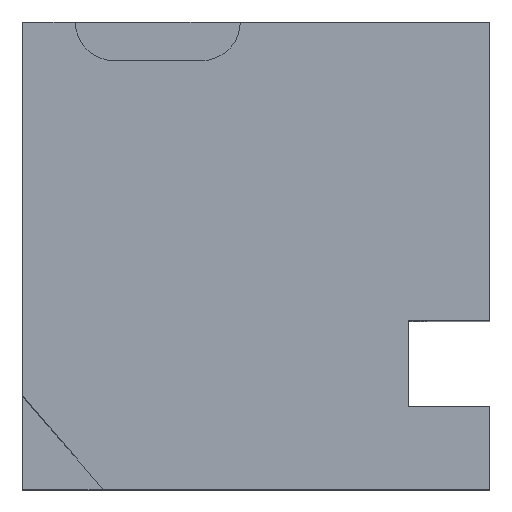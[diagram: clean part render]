
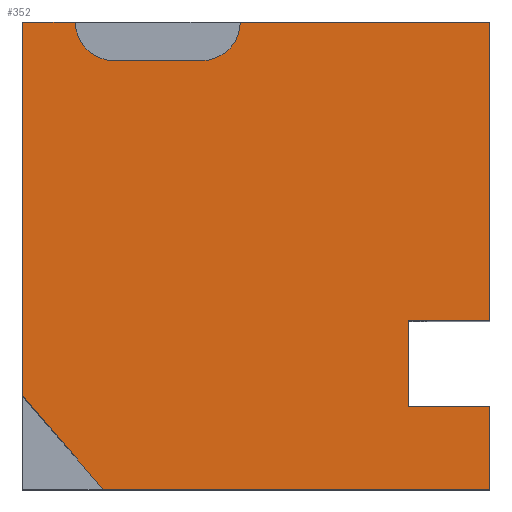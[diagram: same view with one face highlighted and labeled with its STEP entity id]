
A CAD part, top view. The second image highlights one B-rep face of the part: STEP entity #352.
In plain terms, the highlighted planar face has unit normal (0, 0, 1).
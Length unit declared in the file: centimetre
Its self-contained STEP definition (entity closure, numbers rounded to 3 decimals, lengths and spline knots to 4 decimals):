
#54 = VERTEX_POINT ( 'NONE', #469 ) ;
#61 = CARTESIAN_POINT ( 'NONE',  ( 825.5961, 360.1087, 1000. ) ) ;
#74 = DIRECTION ( 'NONE',  ( -1., 0., 0. ) ) ;
#76 = EDGE_CURVE ( 'NONE', #761, #1442, #1075, .T. ) ;
#86 = CARTESIAN_POINT ( 'NONE',  ( 1000., 177.7805, 1000. ) ) ;
#89 = VECTOR ( 'NONE', #401, 100. ) ;
#129 = CARTESIAN_POINT ( 'NONE',  ( 196.2284, 917.2132, 1000. ) ) ;
#162 = CARTESIAN_POINT ( 'NONE',  ( 1000., 0., 1000. ) ) ;
#165 = ORIENTED_EDGE ( 'NONE', *, *, #1229, .T. ) ;
#168 = ORIENTED_EDGE ( 'NONE', *, *, #1362, .T. ) ;
#177 = AXIS2_PLACEMENT_3D ( 'NONE', #528, #198, #901 ) ;
#191 = VECTOR ( 'NONE', #595, 100. ) ;
#198 = DIRECTION ( 'NONE',  ( 0., 0., 1. ) ) ;
#208 = CARTESIAN_POINT ( 'NONE',  ( 0., 1000., 1000. ) ) ;
#222 = VERTEX_POINT ( 'NONE', #1006 ) ;
#227 = CARTESIAN_POINT ( 'NONE',  ( 1000., 1000., 1000. ) ) ;
#234 = VECTOR ( 'NONE', #1177, 100. ) ;
#250 = CARTESIAN_POINT ( 'NONE',  ( 825.5961, 177.7805, 1000. ) ) ;
#270 = DIRECTION ( 'NONE',  ( 1., 0., 0. ) ) ;
#282 = EDGE_CURVE ( 'NONE', #1405, #745, #774, .T. ) ;
#316 = ORIENTED_EDGE ( 'NONE', *, *, #948, .T. ) ;
#352 = ADVANCED_FACE ( 'NONE', ( #1112 ), #919, .T. ) ;
#375 = VERTEX_POINT ( 'NONE', #777 ) ;
#383 = EDGE_CURVE ( 'NONE', #1039, #763, #543, .T. ) ;
#401 = DIRECTION ( 'NONE',  ( -0.653, 0.757, 0. ) ) ;
#418 = CARTESIAN_POINT ( 'NONE',  ( 0., 0., 1000. ) ) ;
#443 = LINE ( 'NONE', #208, #1304 ) ;
#455 = ORIENTED_EDGE ( 'NONE', *, *, #383, .T. ) ;
#457 = LINE ( 'NONE', #1050, #1060 ) ;
#469 = CARTESIAN_POINT ( 'NONE',  ( 383.521, 917.2132, 1000. ) ) ;
#490 = EDGE_CURVE ( 'NONE', #775, #54, #1483, .T. ) ;
#495 = EDGE_CURVE ( 'NONE', #983, #1048, #457, .T. ) ;
#508 = LINE ( 'NONE', #250, #1120 ) ;
#512 = CARTESIAN_POINT ( 'NONE',  ( 825.5961, 177.7805, 1000. ) ) ;
#528 = CARTESIAN_POINT ( 'NONE',  ( 383.521, 1000., 1000. ) ) ;
#539 = AXIS2_PLACEMENT_3D ( 'NONE', #418, #1016, #654 ) ;
#543 = LINE ( 'NONE', #1386, #1187 ) ;
#552 = CARTESIAN_POINT ( 'NONE',  ( 0., 200.3148, 1000. ) ) ;
#557 = VERTEX_POINT ( 'NONE', #1165 ) ;
#595 = DIRECTION ( 'NONE',  ( 1., 0., 0. ) ) ;
#611 = EDGE_CURVE ( 'NONE', #222, #775, #638, .T. ) ;
#621 = CARTESIAN_POINT ( 'NONE',  ( 1000., 1000., 1000. ) ) ;
#625 = CARTESIAN_POINT ( 'NONE',  ( 1000., 1000., 1000. ) ) ;
#633 = DIRECTION ( 'NONE',  ( 0., 0., 1. ) ) ;
#638 = CIRCLE ( 'NONE', #941, 82.7868 ) ;
#654 = DIRECTION ( 'NONE',  ( 1., 0., 0. ) ) ;
#712 = CARTESIAN_POINT ( 'NONE',  ( 0., 1000., 1000. ) ) ;
#718 = CARTESIAN_POINT ( 'NONE',  ( 172.7875, 0., 1000. ) ) ;
#736 = DIRECTION ( 'NONE',  ( 1., 0., 0. ) ) ;
#738 = LINE ( 'NONE', #1473, #89 ) ;
#741 = VECTOR ( 'NONE', #270, 100. ) ;
#745 = VERTEX_POINT ( 'NONE', #162 ) ;
#753 = CARTESIAN_POINT ( 'NONE',  ( 466.3077, 1000., 1000. ) ) ;
#761 = VERTEX_POINT ( 'NONE', #625 ) ;
#763 = VERTEX_POINT ( 'NONE', #512 ) ;
#774 = LINE ( 'NONE', #1020, #741 ) ;
#775 = VERTEX_POINT ( 'NONE', #129 ) ;
#777 = CARTESIAN_POINT ( 'NONE',  ( 825.5961, 360.1087, 1000. ) ) ;
#808 = EDGE_CURVE ( 'NONE', #1405, #1048, #738, .T. ) ;
#810 = VECTOR ( 'NONE', #1404, 100. ) ;
#832 = ORIENTED_EDGE ( 'NONE', *, *, #1265, .T. ) ;
#850 = CIRCLE ( 'NONE', #177, 82.7868 ) ;
#863 = ORIENTED_EDGE ( 'NONE', *, *, #490, .F. ) ;
#901 = DIRECTION ( 'NONE',  ( 1., 0., 0. ) ) ;
#918 = DIRECTION ( 'NONE',  ( -1., 0., 0. ) ) ;
#919 = PLANE ( 'NONE',  #539 ) ;
#921 = ORIENTED_EDGE ( 'NONE', *, *, #808, .F. ) ;
#924 = CARTESIAN_POINT ( 'NONE',  ( 0., 1000., 1000. ) ) ;
#941 = AXIS2_PLACEMENT_3D ( 'NONE', #1459, #633, #736 ) ;
#948 = EDGE_CURVE ( 'NONE', #222, #983, #443, .T. ) ;
#983 = VERTEX_POINT ( 'NONE', #924 ) ;
#1006 = CARTESIAN_POINT ( 'NONE',  ( 113.4416, 1000., 1000. ) ) ;
#1016 = DIRECTION ( 'NONE',  ( 0., 0., 1. ) ) ;
#1020 = CARTESIAN_POINT ( 'NONE',  ( 0., 0., 1000. ) ) ;
#1021 = ORIENTED_EDGE ( 'NONE', *, *, #495, .T. ) ;
#1022 = LINE ( 'NONE', #227, #234 ) ;
#1039 = VERTEX_POINT ( 'NONE', #86 ) ;
#1046 = LINE ( 'NONE', #61, #810 ) ;
#1048 = VERTEX_POINT ( 'NONE', #552 ) ;
#1050 = CARTESIAN_POINT ( 'NONE',  ( 0., 1000., 1000. ) ) ;
#1056 = EDGE_LOOP ( 'NONE', ( #455, #168, #165, #832, #1399, #1335, #863, #1193, #316, #1021, #921, #1379, #1413 ) ) ;
#1060 = VECTOR ( 'NONE', #1423, 100. ) ;
#1075 = LINE ( 'NONE', #712, #1167 ) ;
#1112 = FACE_OUTER_BOUND ( 'NONE', #1056, .T. ) ;
#1120 = VECTOR ( 'NONE', #1432, 100. ) ;
#1165 = CARTESIAN_POINT ( 'NONE',  ( 1000., 360.1087, 1000. ) ) ;
#1167 = VECTOR ( 'NONE', #1185, 100. ) ;
#1177 = DIRECTION ( 'NONE',  ( 0., 1., 0. ) ) ;
#1185 = DIRECTION ( 'NONE',  ( -1., 0., 0. ) ) ;
#1187 = VECTOR ( 'NONE', #74, 100. ) ;
#1193 = ORIENTED_EDGE ( 'NONE', *, *, #611, .F. ) ;
#1229 = EDGE_CURVE ( 'NONE', #375, #557, #1046, .T. ) ;
#1265 = EDGE_CURVE ( 'NONE', #557, #761, #1022, .T. ) ;
#1304 = VECTOR ( 'NONE', #918, 100. ) ;
#1320 = VECTOR ( 'NONE', #1455, 100. ) ;
#1321 = LINE ( 'NONE', #621, #1320 ) ;
#1335 = ORIENTED_EDGE ( 'NONE', *, *, #1542, .F. ) ;
#1362 = EDGE_CURVE ( 'NONE', #763, #375, #508, .T. ) ;
#1379 = ORIENTED_EDGE ( 'NONE', *, *, #282, .T. ) ;
#1386 = CARTESIAN_POINT ( 'NONE',  ( 825.5961, 177.7805, 1000. ) ) ;
#1399 = ORIENTED_EDGE ( 'NONE', *, *, #76, .T. ) ;
#1404 = DIRECTION ( 'NONE',  ( 1., 0., 0. ) ) ;
#1405 = VERTEX_POINT ( 'NONE', #718 ) ;
#1413 = ORIENTED_EDGE ( 'NONE', *, *, #1462, .T. ) ;
#1423 = DIRECTION ( 'NONE',  ( 0., -1., 0. ) ) ;
#1432 = DIRECTION ( 'NONE',  ( 0., 1., 0. ) ) ;
#1442 = VERTEX_POINT ( 'NONE', #753 ) ;
#1455 = DIRECTION ( 'NONE',  ( 0., 1., 0. ) ) ;
#1459 = CARTESIAN_POINT ( 'NONE',  ( 196.2284, 1000., 1000. ) ) ;
#1462 = EDGE_CURVE ( 'NONE', #745, #1039, #1321, .T. ) ;
#1473 = CARTESIAN_POINT ( 'NONE',  ( 0., 200.3148, 1000. ) ) ;
#1483 = LINE ( 'NONE', #1541, #191 ) ;
#1541 = CARTESIAN_POINT ( 'NONE',  ( 196.2284, 917.2132, 1000. ) ) ;
#1542 = EDGE_CURVE ( 'NONE', #54, #1442, #850, .T. ) ;
